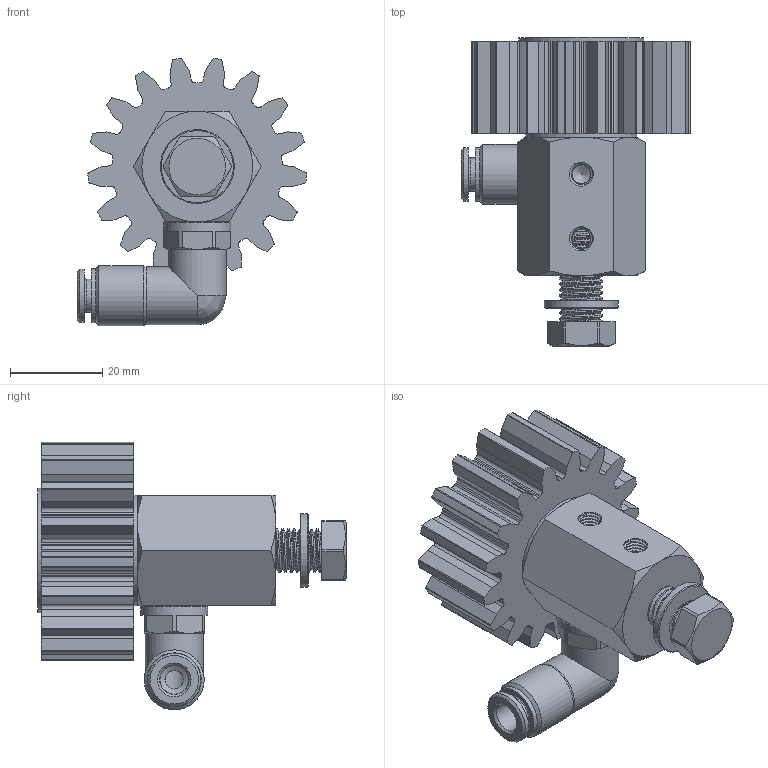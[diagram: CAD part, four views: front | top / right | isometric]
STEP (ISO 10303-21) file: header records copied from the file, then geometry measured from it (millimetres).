
FILE_DESCRIPTION (( 'STEP AP214' ), '1' );
FILE_NAME ('012_13_025_20_17BZ.STEP', '2026-04-08T12:26:53', ( '' ), ( '' ), 'SwSTEP 2.0', 'SolidWorks 2022', '' );
FILE_SCHEMA (( 'AUTOMOTIVE_DESIGN' ));
Length unit declared in the file: millimetre
Products named in the file (13): DR6-C_HDX_25.07.16_1; 12012_06_01_Scheibe-CRS-VA_27.SLDASM; Schmierzahnrad_025_20_17_G; OR 7.2X1.9_1; H202242_HDS022_6_M10X1_08.05.17(1); 012_13_025_20_17BZ; 012_06_Senkschraube; Schraube_M8_20; U_Scheibe_8,4; 12012_06_00_Scheibe-CRS-VA.SLDASM; RIVOLUZIONE_0_2; RH202242; 012_13b_01_winklige_Achse_lang_M8_1
Assembly tree (12 placements, depth 3):
  012_13_025_20_17BZ
    012_13b_01_winklige_Achse_lang_M8_1
    Schraube_M8_20
    U_Scheibe_8,4
    H202242_HDS022_6_M10X1_08.05.17(1)
      OR 7.2X1.9_1
      RH202242
      DR6-C_HDX_25.07.16_1
      RIVOLUZIONE_0_2
    12012_06_00_Scheibe-CRS-VA.SLDASM
    12012_06_01_Scheibe-CRS-VA_27.SLDASM
    012_06_Senkschraube
    Schmierzahnrad_025_20_17_G
Bounding box: 49.71 x 66.9 x 57.98 mm (x, y, z)
Volume: 48168 mm3; surface area: 21794.5 mm2
Topology: 11 solids, 11 shells, 734 faces, 2013 edges, 1335 vertices
Faces by surface type: plane 420, cylinder 141, bspline 116, cone 54, torus 3
Full cylindrical faces by diameter (mm): 3 x1, 4 x2, 5.5 x1, 6 x1, 6.2 x1, 6.3 x1, 6.5 x1, 7.2 x1, 8.4 x1, 8.5 x1, 9 x10, 9.9 x1, 10 x3, 10.1 x2, 10.3 x1, 11.5 x1, 11.7 x1, 12.5 x2, 13 x1, 14.5 x1, 16 x1, 24 x1, 27 x1
Entity records: 45206 total; most frequent: CARTESIAN_POINT 26869, ORIENTED_EDGE 3730, DIRECTION 3063, EDGE_CURVE 1865, VERTEX_POINT 1270, VECTOR 1181, LINE 1181, AXIS2_PLACEMENT_3D 941
